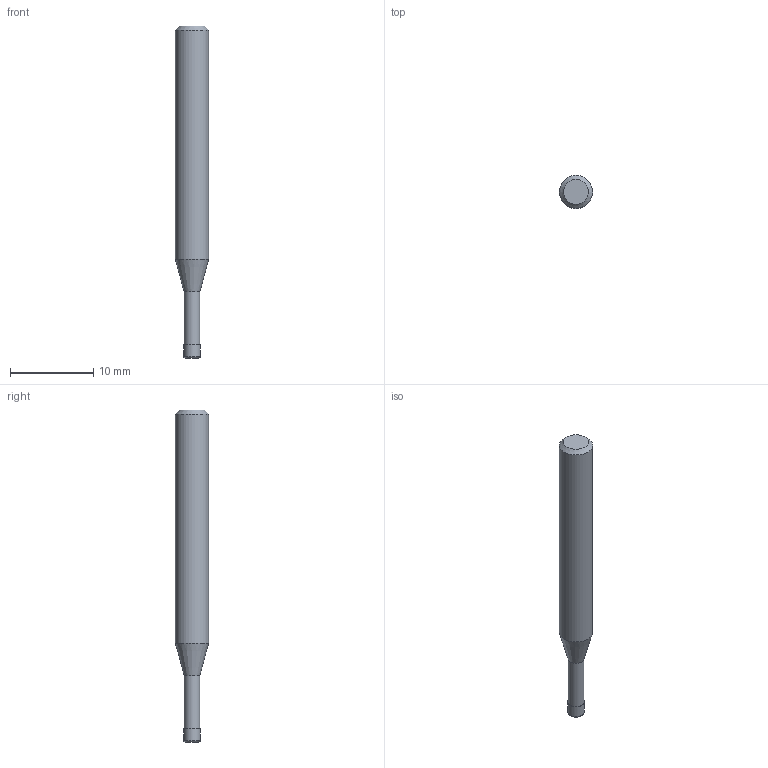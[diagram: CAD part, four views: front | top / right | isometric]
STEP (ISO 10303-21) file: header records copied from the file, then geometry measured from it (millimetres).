
FILE_DESCRIPTION((''),'2;1');
FILE_NAME('C:\Users\nsx150\AppData\Local\Temp\Mastercam 2021\80JYEHYUML\TEMP.step','2022-03-29T14:37:22',(''),(''),'STEP Write','Mastercam 2021 ... CNC Software, Inc.','');
FILE_SCHEMA(('AUTOMOTIVE_DESIGN'));
Length unit declared in the file: millimetre
Products named in the file (1): None
Bounding box: 4 x 4 x 40 mm (x, y, z)
Volume: 402.8 mm3; surface area: 456.2 mm2
Topology: 2 solids, 2 shells, 10 faces, 14 edges, 8 vertices
Faces by surface type: plane 4, cylinder 3, cone 2, torus 1
Full cylindrical faces by diameter (mm): 1.91 x1, 2 x1, 4 x1
Entity records: 232 total; most frequent: DIRECTION 40, CARTESIAN_POINT 28, AXIS2_PLACEMENT_3D 20, ORIENTED_EDGE 16, EDGE_LOOP 16, STYLED_ITEM 13, ADVANCED_FACE 10, FACE_BOUND 10
